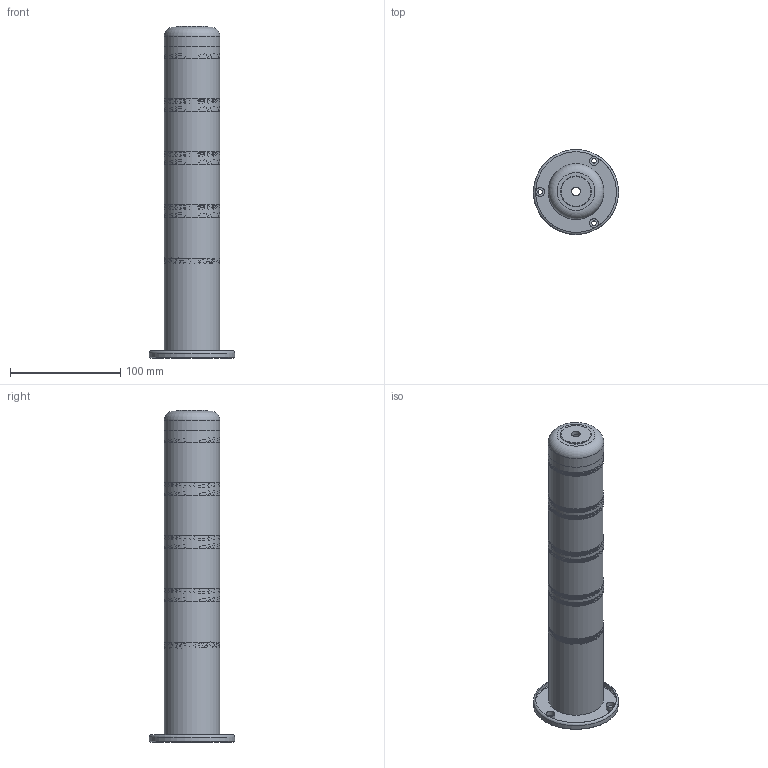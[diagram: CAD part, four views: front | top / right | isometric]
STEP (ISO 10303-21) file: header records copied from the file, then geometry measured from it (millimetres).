
FILE_DESCRIPTION(/* description */ (''),/* implementation_level */ '2;1');
FILE_NAME(/* name */ 'OLE1-401 带蜂鸣.stp',/* time_stamp */ '2022-12-13T18:16:12+08:00',/* author */ (''),/* organization */ (''),/* preprocessor_version */ 'ST-DEVELOPER v16.7',/* originating_system */ 'SIEMENS PLM Software NX 12.0',/* authorisation */ '');
FILE_SCHEMA (('AUTOMOTIVE_DESIGN { 1 0 10303 214 3 1 1 1 }'));
Products named in the file (1): Admi15EC76A1t4pv
Bounding box: 77 x 77 x 300.5 mm (x, y, z)
Volume: 161812.1 mm3; surface area: 150435.2 mm2
Topology: 12 solids, 13 shells, 2024 faces, 4869 edges, 3247 vertices
Faces by surface type: plane 1861, cylinder 88, bspline 60, cone 12, torus 3
Full cylindrical faces by diameter (mm): 4 x3, 8 x4, 18 x1, 21.5 x1, 28 x1, 32 x4, 38 x1, 42 x1, 44.2 x4, 45 x1, 45.5 x8, 46.3 x5, 47 x1, 50 x5, 50.3 x5, 77 x1
Entity records: 81765 total; most frequent: CARTESIAN_POINT 36940, ORIENTED_EDGE 9482, DIRECTION 7832, EDGE_CURVE 4741, LINE 3648, VECTOR 3648, VERTEX_POINT 3186, EDGE_LOOP 2471
